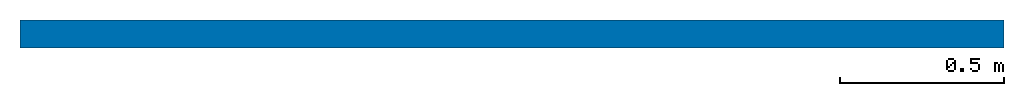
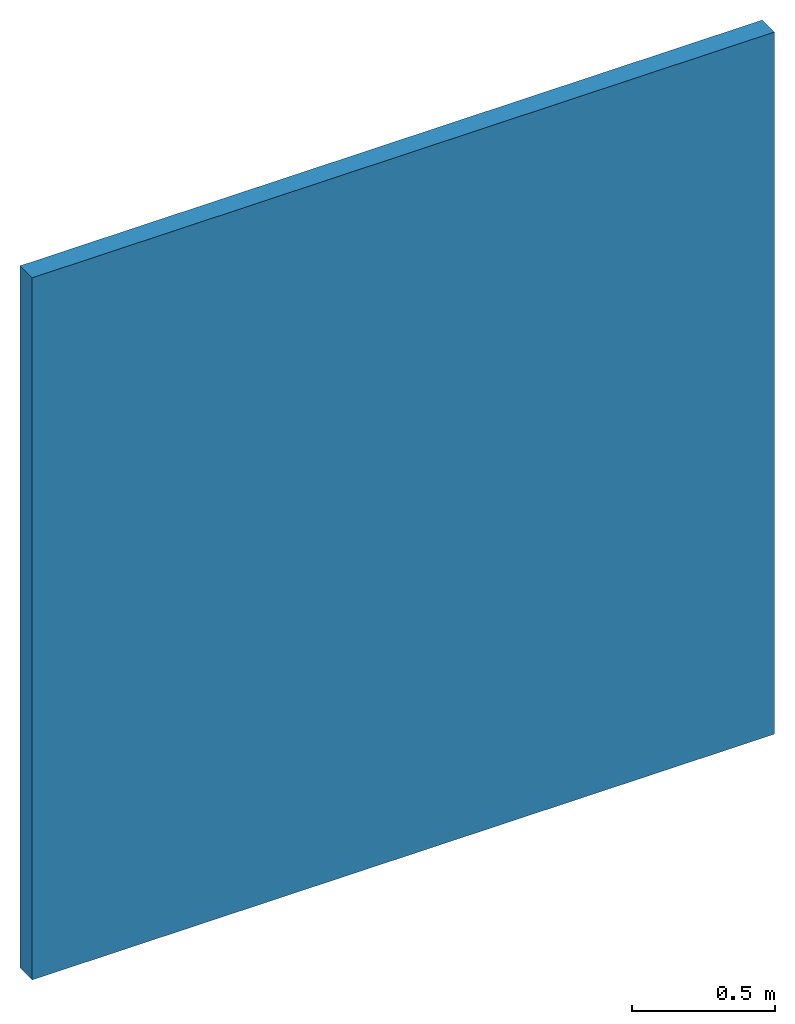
# One storey: 1 wall.
"""IFC2X3 building model written with IfcOpenShell, lengths in millimetres."""

from ifc_helpers import new_model, entity, si_unit, converted_unit, derived_unit, direction, frame, frame_2d, origin, place, context, subcontext, project, spatial, rectangle, extrude, material, layer, layer_set, layer_usage, type_object, element, save


model = new_model("IFC2X3")

# Units and contexts
model_context = context("Model", 3, precision=0.01, world=origin(), true_north=direction((6.12303176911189e-17, 1.0)))
body_context = subcontext(model_context, "Body", "Model", "MODEL_VIEW")
ifc_project = project(units=[si_unit("LENGTHUNIT", "METRE", prefix="MILLI"), si_unit("AREAUNIT", "SQUARE_METRE"), si_unit("VOLUMEUNIT", "CUBIC_METRE"), converted_unit("PLANEANGLEUNIT", "DEGREE", entity("IfcRatioMeasure", 0.0174532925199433), si_unit("PLANEANGLEUNIT", "RADIAN"), dimensions=[0, 0, 0, 0, 0, 0, 0]), si_unit("MASSUNIT", "GRAM", prefix="KILO"), si_unit("TIMEUNIT", "SECOND"), si_unit("FREQUENCYUNIT", "HERTZ"), si_unit("THERMODYNAMICTEMPERATUREUNIT", "DEGREE_CELSIUS"), derived_unit("THERMALTRANSMITTANCEUNIT", [(si_unit("MASSUNIT", "GRAM", prefix="KILO"), 1), (si_unit("THERMODYNAMICTEMPERATUREUNIT", "KELVIN"), -1), (si_unit("TIMEUNIT", "SECOND"), -3)]), derived_unit("VOLUMETRICFLOWRATEUNIT", [(si_unit("LENGTHUNIT", "METRE"), 3), (si_unit("TIMEUNIT", "SECOND"), -1)]), si_unit("ELECTRICCURRENTUNIT", "AMPERE"), si_unit("ELECTRICVOLTAGEUNIT", "VOLT"), si_unit("POWERUNIT", "WATT"), si_unit("FORCEUNIT", "NEWTON", prefix="KILO"), si_unit("ILLUMINANCEUNIT", "LUX"), si_unit("LUMINOUSFLUXUNIT", "LUMEN"), si_unit("LUMINOUSINTENSITYUNIT", "CANDELA"), derived_unit("USERDEFINED", [(si_unit("MASSUNIT", "GRAM", prefix="KILO"), -1), (si_unit("LENGTHUNIT", "METRE"), -2), (si_unit("TIMEUNIT", "SECOND"), 3), (si_unit("LUMINOUSFLUXUNIT", "LUMEN"), 1)]), derived_unit("LINEARVELOCITYUNIT", [(si_unit("LENGTHUNIT", "METRE"), 1), (si_unit("TIMEUNIT", "SECOND"), -1)]), si_unit("PRESSUREUNIT", "PASCAL"), derived_unit("USERDEFINED", [(si_unit("LENGTHUNIT", "METRE"), -2), (si_unit("MASSUNIT", "GRAM", prefix="KILO"), 1), (si_unit("TIMEUNIT", "SECOND"), -2)])], contexts=[model_context])

# Site, building, storey
site_placement = place(None, origin())
site = spatial("IfcSite", under=ifc_project, at=site_placement, Name="Default", CompositionType="ELEMENT")
building_placement = place(site_placement, origin())
building = spatial("IfcBuilding", under=site, at=building_placement, CompositionType="ELEMENT")
storey_placement = place(building_placement, origin())
storey = spatial("IfcBuildingStorey", under=building, at=storey_placement, Name="Уровень 1", CompositionType="ELEMENT", Elevation=0.0)

# Wall
ifc_material_1 = material(Name="КНАУФ-Файерборд")
ifc_layer_1 = layer(ifc_material_1, 12.5)
ifc_material_2 = material(Name="КНАУФ-лист")
ifc_layer_2 = layer(ifc_material_2, 12.5)
ifc_material_3 = material(Name="Luft")
ifc_layer_3 = layer(ifc_material_3, 10.0)
ifc_material_4 = material(Name="КНАУФ-профиль+мин.вата 50@600mm")
ifc_layer_4 = layer(ifc_material_4, 50.0)
ifc_layer_set = layer_set([ifc_layer_1, ifc_layer_2, ifc_layer_3, ifc_layer_4], Name="Базовая стена:Облицовка КНАУФ С631.2 Применение внутри здания ПП60/27 ПН28х27 ГСП-А 12.5 Файерборд 12.5")
ifc_layer_usage = layer_usage(ifc_layer_set, "AXIS2", "NEGATIVE", 42.5)
wall_type = type_object("IfcWallType", Name="Базовая стена:Облицовка КНАУФ С631.2 Применение внутри здания ПП60/27 ПН28х27 ГСП-А 12.5 Файерборд 12.5", PredefinedType="STANDARD", material=ifc_layer_set)
wall_placement = place(storey_placement, frame((-1800.47209759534, -871.117770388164, 0.0)))
element("IfcWallStandardCase", 1, at=wall_placement, inside=storey, type_object=wall_type, material=ifc_layer_usage, Name="Базовая стена:Облицовка КНАУФ С631.2 Применение внутри здания ПП60/27 ПН28х27 ГСП-А 12.5 Файерборд 12.5", ObjectType="Базовая стена:Облицовка КНАУФ С631.2 Применение внутри здания ПП60/27 ПН28х27 ГСП-А 12.5 Файерборд 12.5", context=body_context, shape_type="SweptSolid", body=[
    extrude(rectangle(XDim=3000.0, YDim=84.9999999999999, at=frame_2d((1500.0, 0.0), x_axis=(-1.0, 0.0))), origin(), (0.0, 0.0, 1.0), 3000.0),
])

save(model, "model.ifc")
